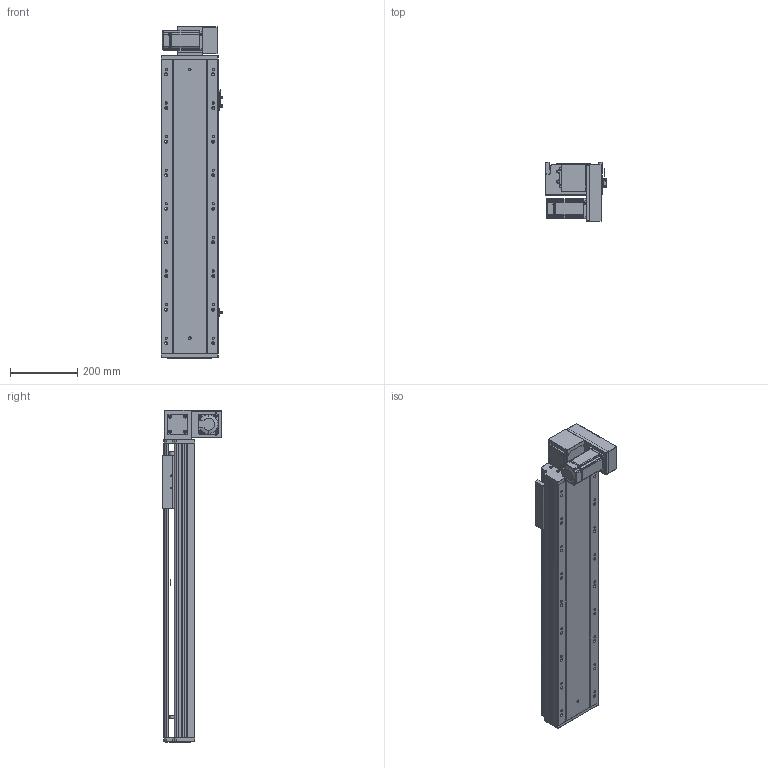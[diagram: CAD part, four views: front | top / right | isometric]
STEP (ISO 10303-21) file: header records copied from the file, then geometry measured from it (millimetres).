
FILE_DESCRIPTION (( 'STEP AP203' ), '1' );
FILE_NAME ('RY170-T-300-DR-P400W.SLDASM_600.step', '2021-03-01T08:22:58', ( '盈信电脑' ), ( '东莞市道滘镇水果街19号' ), 'SwSTEP 2.0', 'SolidWorks 2012', '' );
FILE_SCHEMA (( 'CONFIG_CONTROL_DESIGN' ));
Length unit declared in the file: millimetre
Products named in the file (19): 15; RY170-T-300-DR-P400W.SLDASM_600; RY170-T蹟翐M4; RY170-T肮祭謫裔啣; RY170-T-呴雄粣揤踡啣; 滅袉蝶18-10; RY170-T肮祭湍揤踡輸1; RY170-T肮祭湍揤踡輸2; RY170肮祭謫萇儂欶; RY120-T主同步轮轴承压盖; RY170翋肮祭謫釱; RY170肮祭謫ヶ裔啣; RY170同步轮电机安装板(400W); RY170綴裔啣; RY170-T-300肮祭謫倰第裔啣-DR_600; RY170外置感应片(200共用）; 覜茼ん672; RY170-T-300肮祭謫倰第菁釱-DR_600; RY170肮祭湍臏賑輸
Assembly tree (23 placements, depth 2):
  RY170-T-300-DR-P400W.SLDASM_600
    RY170-T-300肮祭謫倰第菁釱-DR_600
    RY170肮祭湍臏賑輸
    RY170-T-300肮祭謫倰第裔啣-DR_600
    RY170綴裔啣
    覜茼ん672  x3
    RY170外置感应片(200共用）
    RY170肮祭謫ヶ裔啣
    RY170翋肮祭謫釱
    RY170同步轮电机安装板(400W)
    RY170肮祭謫萇儂欶
    RY170-T肮祭湍揤踡輸1  x2
    RY170-T肮祭湍揤踡輸2  x2
    RY120-T主同步轮轴承压盖
    RY170-T肮祭謫裔啣
    RY170-T蹟翐M4
    滅袉蝶18-10  x2
    RY170-T-呴雄粣揤踡啣
    15
Bounding box: 183.7 x 178 x 988 mm (x, y, z)
Volume: 5232507.2 mm3; surface area: 1757253.6 mm2
Topology: 23 solids, 23 shells, 2754 faces, 7694 edges, 4961 vertices
Faces by surface type: plane 1268, cylinder 1244, cone 212, bspline 30
Entity records: 83133 total; most frequent: CARTESIAN_POINT 18877, ORIENTED_EDGE 13144, DIRECTION 12800, EDGE_CURVE 6572, AXIS2_PLACEMENT_3D 4494, VERTEX_POINT 4317, LINE 3812, VECTOR 3812
